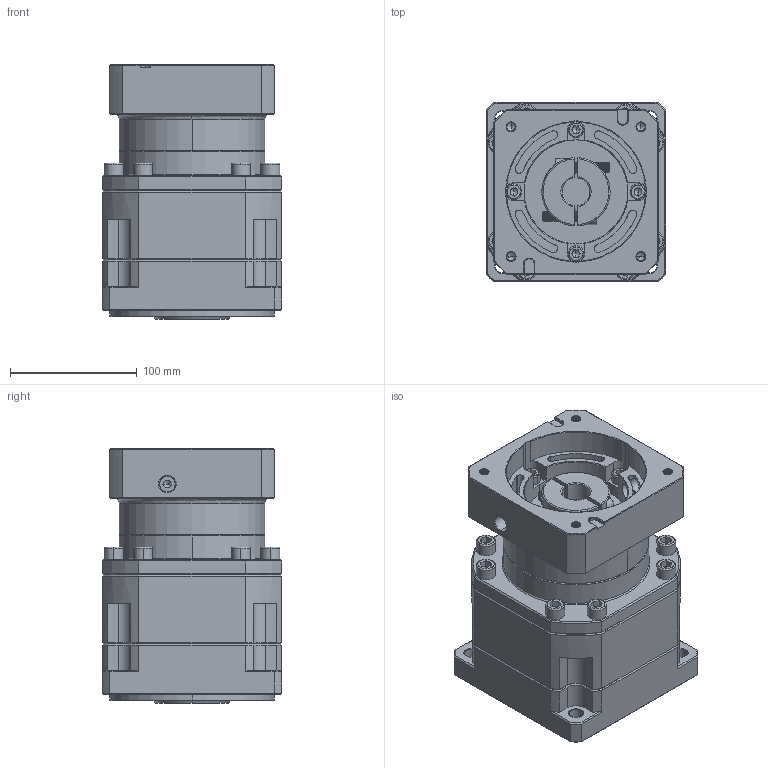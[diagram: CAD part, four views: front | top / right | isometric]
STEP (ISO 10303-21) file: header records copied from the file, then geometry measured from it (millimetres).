
FILE_DESCRIPTION (( 'STEP AP214' ), '1' );
FILE_NAME ('ZB142A-K35-L2-P2-22-110-145-M8.step', '2023-09-02T02:53:46', ( '' ), ( '' ), 'SwSTEP 2.0', 'SolidWorks 2016', '' );
FILE_SCHEMA (( 'AUTOMOTIVE_DESIGN' ));
Length unit declared in the file: millimetre
Products named in the file (1): ZB142A-K35-L2-P2-22-110-145-M8
Bounding box: 142 x 142 x 201.2 mm (x, y, z)
Volume: 2794813.1 mm3; surface area: 249630.5 mm2
Topology: 6 solids, 6 shells, 2541 faces, 6689 edges, 4267 vertices
Faces by surface type: plane 1224, cylinder 480, bspline 400, cone 383, torus 54
Entity records: 132613 total; most frequent: CARTESIAN_POINT 45021, ORIENTED_EDGE 13274, DIRECTION 10923, EDGE_CURVE 6637, VERTEX_POINT 4267, LINE 4229, VECTOR 4229, AXIS2_PLACEMENT_3D 3347
